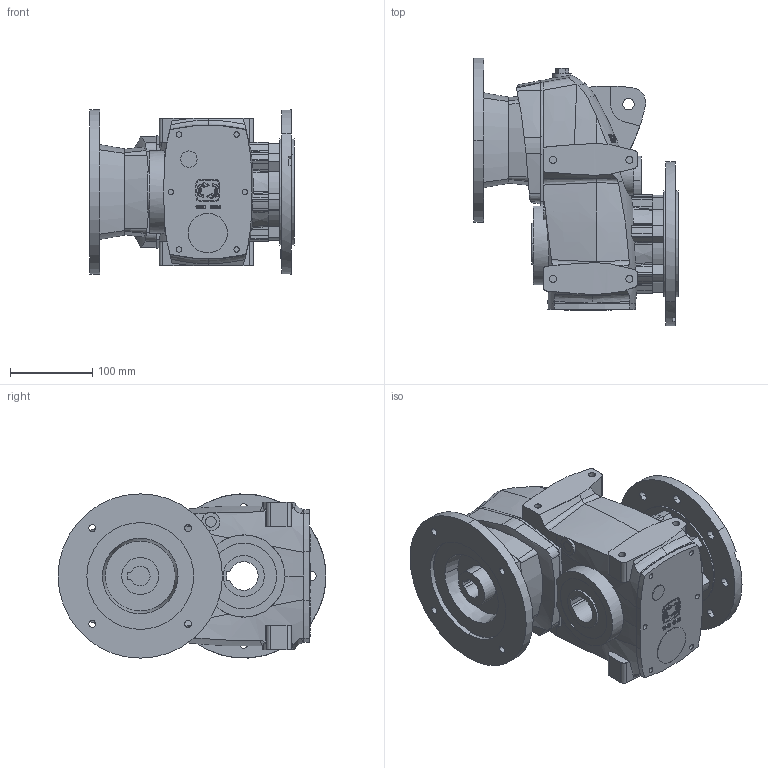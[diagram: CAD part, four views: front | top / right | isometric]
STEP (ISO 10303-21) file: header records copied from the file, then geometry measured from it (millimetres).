
FILE_DESCRIPTION((''),'2;1');
FILE_NAME('STON_4_ASM','2015-07-13T',('StemBG2'),(''),'PRO/ENGINEER BY PARAMETRIC TECHNOLOGY CORPORATION, 2008020','PRO/ENGINEER BY PARAMETRIC TECHNOLOGY CORPORATION, 2008020','');
FILE_SCHEMA(('AUTOMOTIVE_DESIGN_CC2 { 1 2 10303 214 -1 1 5 2 }'));
Length unit declared in the file: millimetre
Products named in the file (6): HOUST4; ICVEST4; TCVST4; IFL90B5ST4; OFL200ST4; STON_4_ASM
Assembly tree (5 placements, depth 2):
  STON_4_ASM
    HOUST4
    ICVEST4
    TCVST4
    IFL90B5ST4
    OFL200ST4
Bounding box: 249 x 325.99 x 199.97 mm (x, y, z)
Volume: 5663471.1 mm3; surface area: 498997.8 mm2
Topology: 5 solids, 5 shells, 1017 faces, 2793 edges, 1846 vertices
Faces by surface type: plane 499, cylinder 241, extrusion 147, bspline 92, cone 36, revolution 2
Entity records: 47196 total; most frequent: CARTESIAN_POINT 12040, ORIENTED_EDGE 5562, DIRECTION 4298, PRESENTATION_STYLE_ASSIGNMENT 2950, STYLED_ITEM 2786, CURVE_STYLE 2781, EDGE_CURVE 2781, VERTEX_POINT 1846
